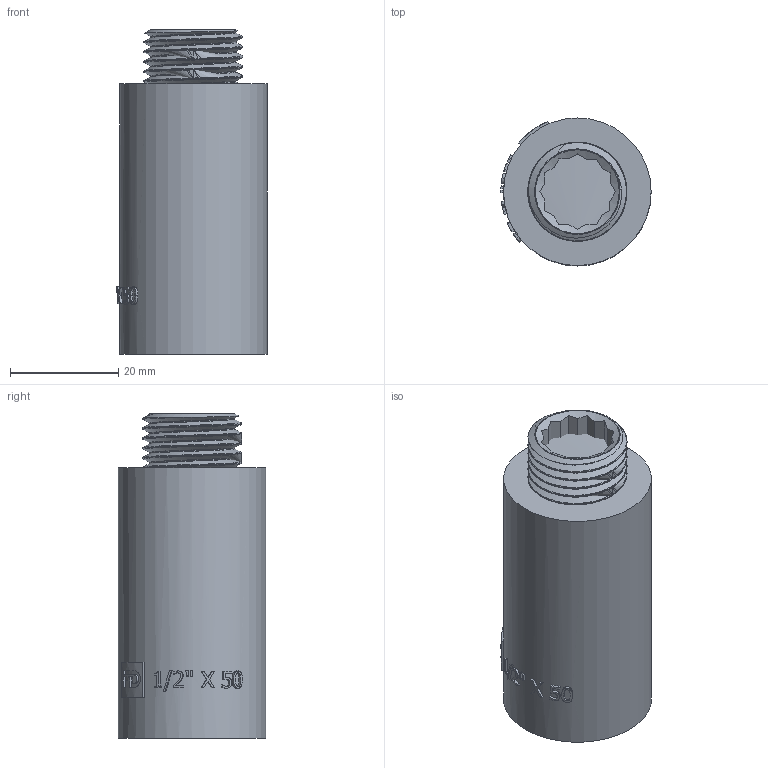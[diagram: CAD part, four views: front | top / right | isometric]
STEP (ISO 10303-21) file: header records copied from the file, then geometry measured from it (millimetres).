
FILE_DESCRIPTION(/* description */ (''),/* implementation_level */ '2;1');
FILE_NAME(/* name */ 'C:\Users\Doom\Desktop\Фадотех\Резьба\UD50 18.03.2020\UD50 18.03.2020.stp',/* time_stamp */ '2022-01-22T11:39:08+02:00',/* author */ ('Doom'),/* organization */ (''),/* preprocessor_version */ 'ST-DEVELOPER v18',/* originating_system */ 'Autodesk Inventor 2020',/* authorisation */ '');
FILE_SCHEMA (('AUTOMOTIVE_DESIGN { 1 0 10303 214 3 1 1 }'));
Length unit declared in the file: millimetre
Products named in the file (1): UD50 18.03.2020
Bounding box: 27.8 x 27.3 x 60 mm (x, y, z)
Volume: 18572.8 mm3; surface area: 14689.7 mm2
Topology: 3 solids, 3 shells, 195 faces, 532 edges, 356 vertices
Faces by surface type: plane 83, bspline 68, cylinder 41, cone 3
Full cylindrical faces by diameter (mm): 15.649 x2, 16.858 x1, 18.26 x12, 18.34 x6, 20.95 x2, 21.5 x1, 27.3 x1
Entity records: 16506 total; most frequent: CARTESIAN_POINT 12139, ORIENTED_EDGE 1056, DIRECTION 647, EDGE_CURVE 528, VERTEX_POINT 354, AXIS2_PLACEMENT_3D 225, EDGE_LOOP 216, LINE 197
